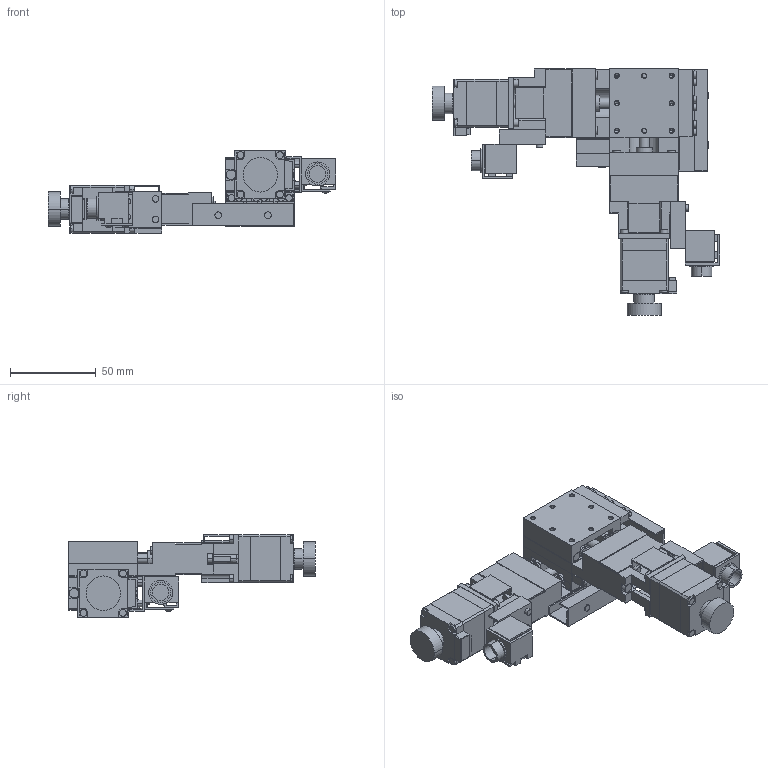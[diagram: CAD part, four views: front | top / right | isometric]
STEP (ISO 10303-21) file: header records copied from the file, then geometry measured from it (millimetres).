
FILE_DESCRIPTION(('STEP AP203'),'1');
FILE_NAME('C:/3D-Trans/3D_PMG413M-L□-C4+240122.step','2024-02-27T00:06:03',(' '),(' '),'Spatial InterOp 3D',' ',' ');
FILE_SCHEMA(('CONFIG_CONTROL_DESIGN'));
Length unit declared in the file: millimetre
Products named in the file (12): 1; 2; 3; 4; 5; 6; 7; 8; 9; 10; 11; 12
Bounding box: 167.5 x 143.5 x 48 mm (x, y, z)
Volume: 172144.5 mm3; surface area: 91987.3 mm2
Topology: 12 solids, 12 shells, 1466 faces, 3754 edges, 2388 vertices
Faces by surface type: plane 916, cylinder 446, cone 96, sphere 8
Entity records: 44854 total; most frequent: CARTESIAN_POINT 7948, DIRECTION 7746, ORIENTED_EDGE 7412, EDGE_CURVE 3706, LINE 2590, VECTOR 2590, AXIS2_PLACEMENT_3D 2578, VERTEX_POINT 2388
